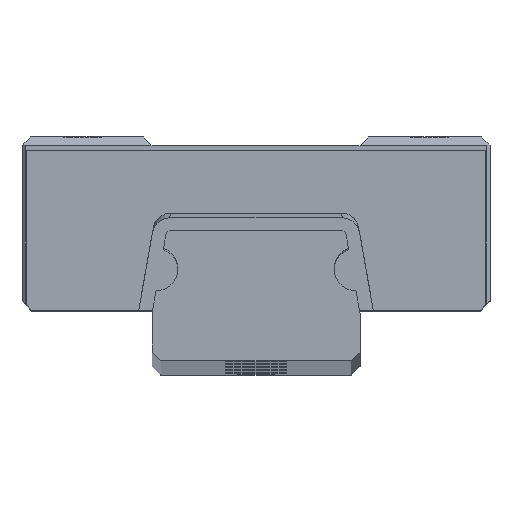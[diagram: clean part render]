
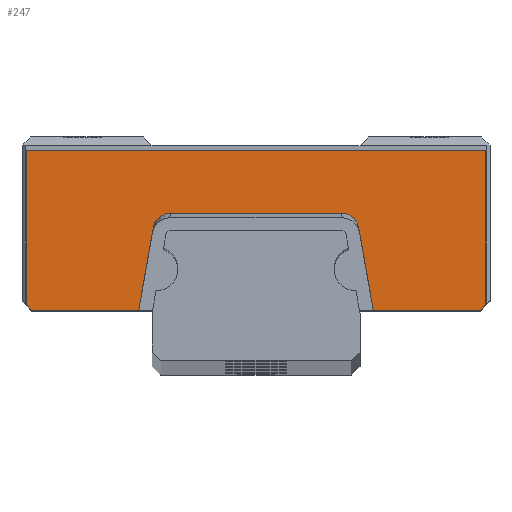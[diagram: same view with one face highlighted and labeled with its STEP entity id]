
A CAD part, top view. The second image highlights one B-rep face of the part: STEP entity #247.
In plain terms, the highlighted planar face has unit normal (0, 0, 1).
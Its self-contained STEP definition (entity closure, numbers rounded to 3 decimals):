
#247=ADVANCED_FACE('',(#617),#618,.F.);
#617=FACE_OUTER_BOUND('',#1002,.T.);
#618=PLANE('',#1003);
#1002=EDGE_LOOP('',(#1877,#1878,#1879,#1880,#1881,#1882,#1883,#1884,#1885,#1886,#1887,#1888));
#1003=AXIS2_PLACEMENT_3D('',#1889,#1890,#1891);
#1877=ORIENTED_EDGE('',*,*,#2203,.T.);
#1878=ORIENTED_EDGE('',*,*,#2216,.T.);
#1879=ORIENTED_EDGE('',*,*,#2237,.T.);
#1880=ORIENTED_EDGE('',*,*,#2220,.T.);
#1881=ORIENTED_EDGE('',*,*,#2198,.F.);
#1882=ORIENTED_EDGE('',*,*,#2150,.T.);
#1883=ORIENTED_EDGE('',*,*,#2146,.T.);
#1884=ORIENTED_EDGE('',*,*,#2251,.T.);
#1885=ORIENTED_EDGE('',*,*,#2241,.F.);
#1886=ORIENTED_EDGE('',*,*,#2272,.F.);
#1887=ORIENTED_EDGE('',*,*,#2189,.T.);
#1888=ORIENTED_EDGE('',*,*,#2183,.T.);
#1889=CARTESIAN_POINT('',(-6.765,-8.5,191.5));
#1890=DIRECTION('',(0.,0.,-1.0));
#1891=DIRECTION('',(1.0,0.,0.));
#2146=EDGE_CURVE('',#2556,#2554,#2557,.T.);
#2150=EDGE_CURVE('',#2563,#2556,#2564,.T.);
#2183=EDGE_CURVE('',#2620,#2617,#2621,.T.);
#2189=EDGE_CURVE('',#2630,#2620,#2631,.T.);
#2198=EDGE_CURVE('',#2563,#2647,#2648,.F.);
#2203=EDGE_CURVE('',#2617,#2654,#2656,.F.);
#2216=EDGE_CURVE('',#2654,#2677,#2678,.T.);
#2220=EDGE_CURVE('',#2684,#2647,#2685,.T.);
#2237=EDGE_CURVE('',#2677,#2684,#2709,.T.);
#2241=EDGE_CURVE('',#2714,#2716,#2717,.T.);
#2251=EDGE_CURVE('',#2554,#2716,#2733,.T.);
#2272=EDGE_CURVE('',#2630,#2714,#2760,.T.);
#2554=VERTEX_POINT('',#3098);
#2556=VERTEX_POINT('',#3101);
#2557=LINE('',#3102,#3103);
#2563=VERTEX_POINT('',#3112);
#2564=LINE('',#3113,#3114);
#2617=VERTEX_POINT('',#3190);
#2620=VERTEX_POINT('',#3194);
#2621=LINE('',#3195,#3196);
#2630=VERTEX_POINT('',#3210);
#2631=LINE('',#3211,#3212);
#2647=VERTEX_POINT('',#3236);
#2648=LINE('',#3237,#3238);
#2654=VERTEX_POINT('',#3247);
#2656=LINE('',#3250,#3251);
#2677=VERTEX_POINT('',#3280);
#2678=ELLIPSE('',#3281,1.036,1.0);
#2684=VERTEX_POINT('',#3288);
#2685=ELLIPSE('',#3289,1.036,1.0);
#2709=LINE('',#3320,#3321);
#2714=VERTEX_POINT('',#3328);
#2716=VERTEX_POINT('',#3331);
#2717=LINE('',#3332,#3333);
#2733=LINE('',#3358,#3359);
#2760=LINE('',#3406,#3407);
#3098=CARTESIAN_POINT('',(13.25,3.3,191.5));
#3101=CARTESIAN_POINT('',(12.95,3.,191.5));
#3102=CARTESIAN_POINT('',(12.95,3.,191.5));
#3103=VECTOR('',#3745,1.0);
#3112=CARTESIAN_POINT('',(6.765,3.,191.5));
#3113=CARTESIAN_POINT('',(5.952,3.,191.5));
#3114=VECTOR('',#3749,1.0);
#3190=CARTESIAN_POINT('',(-6.765,3.,191.5));
#3194=CARTESIAN_POINT('',(-12.95,3.,191.5));
#3195=CARTESIAN_POINT('',(-12.95,3.,191.5));
#3196=VECTOR('',#3798,1.0);
#3210=CARTESIAN_POINT('',(-13.25,3.3,191.5));
#3211=CARTESIAN_POINT('',(-13.5,3.55,191.5));
#3212=VECTOR('',#3804,1.0);
#3236=CARTESIAN_POINT('',(5.93,7.735,191.5));
#3237=CARTESIAN_POINT('',(8.323,-5.84,191.5));
#3238=VECTOR('',#3813,1.0);
#3247=CARTESIAN_POINT('',(-5.93,7.735,191.5));
#3250=CARTESIAN_POINT('',(-6.765,3.,191.5));
#3251=VECTOR('',#3818,1.0);
#3280=CARTESIAN_POINT('',(-4.933,8.596,191.5));
#3281=AXIS2_PLACEMENT_3D('',#3839,#3840,#3841);
#3288=CARTESIAN_POINT('',(4.933,8.596,191.5));
#3289=AXIS2_PLACEMENT_3D('',#3849,#3850,#3851);
#3320=CARTESIAN_POINT('',(-41.5,8.596,191.5));
#3321=VECTOR('',#3877,1.0);
#3328=CARTESIAN_POINT('',(-13.25,12.228,191.5));
#3331=CARTESIAN_POINT('',(13.25,12.228,191.5));
#3332=CARTESIAN_POINT('',(-41.5,12.228,191.5));
#3333=VECTOR('',#3881,1.0);
#3358=CARTESIAN_POINT('',(13.25,-8.5,191.5));
#3359=VECTOR('',#3891,1.0);
#3406=CARTESIAN_POINT('',(-13.25,-8.5,191.5));
#3407=VECTOR('',#3912,1.0);
#3745=DIRECTION('',(0.707,0.707,0.));
#3749=DIRECTION('',(1.0,0.,0.));
#3798=DIRECTION('',(1.0,0.,0.));
#3804=DIRECTION('',(0.707,-0.707,0.));
#3813=DIRECTION('',(0.174,-0.985,0.));
#3818=DIRECTION('',(-0.174,-0.985,0.));
#3839=CARTESIAN_POINT('',(-4.945,7.561,191.5));
#3840=DIRECTION('',(0.,0.,-1.0));
#3841=DIRECTION('',(-0.174,-0.985,0.));
#3849=CARTESIAN_POINT('',(4.945,7.561,191.5));
#3850=DIRECTION('',(0.,0.,-1.0));
#3851=DIRECTION('',(-0.174,0.985,0.));
#3877=DIRECTION('',(1.0,0.,0.));
#3881=DIRECTION('',(1.0,0.,0.));
#3891=DIRECTION('',(0.,1.0,0.));
#3912=DIRECTION('',(0.,1.0,0.));
